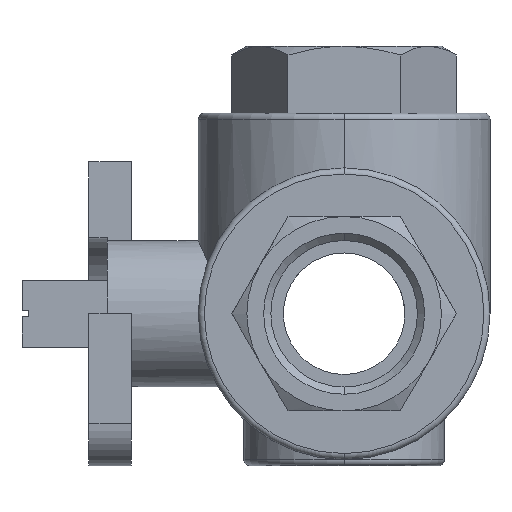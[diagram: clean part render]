
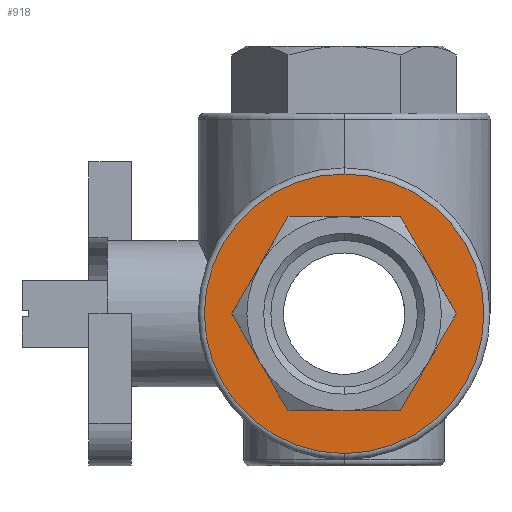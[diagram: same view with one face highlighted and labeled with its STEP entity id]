
A CAD part, left-side view. The second image highlights one B-rep face of the part: STEP entity #918.
In plain terms, the highlighted planar face has unit normal (-1, 0, 0).
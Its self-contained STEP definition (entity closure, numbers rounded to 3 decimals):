
#229 = FACE_BOUND ( 'NONE', #3898, .T. ) ;
#242 = FACE_OUTER_BOUND ( 'NONE', #3657, .T. ) ;
#311 = CIRCLE ( 'NONE', #794, 23. ) ;
#393 = VECTOR ( 'NONE', #1803, 1000. ) ;
#408 = VECTOR ( 'NONE', #1781, 1000. ) ;
#414 = LINE ( 'NONE', #1772, #408 ) ;
#416 = LINE ( 'NONE', #1816, #422 ) ;
#418 = LINE ( 'NONE', #1829, #430 ) ;
#420 = LINE ( 'NONE', #1783, #393 ) ;
#422 = VECTOR ( 'NONE', #1817, 1000. ) ;
#430 = VECTOR ( 'NONE', #1833, 1000. ) ;
#435 = LINE ( 'NONE', #1859, #437 ) ;
#437 = VECTOR ( 'NONE', #1870, 1000. ) ;
#445 = LINE ( 'NONE', #1879, #446 ) ;
#446 = VECTOR ( 'NONE', #1880, 1000. ) ;
#758 = AXIS2_PLACEMENT_3D ( 'NONE', #1431, #1440, #1441 ) ;
#794 = AXIS2_PLACEMENT_3D ( 'NONE', #1563, #1569, #1570 ) ;
#918 = ADVANCED_FACE ( 'NONE', ( #242, #229 ), #1439, .T. ) ;
#978 = AXIS2_PLACEMENT_3D ( 'NONE', #2190, #2199, #2200 ) ;
#1017 = EDGE_CURVE ( 'NONE', #2666, #2729, #311, .T. ) ;
#1091 = EDGE_CURVE ( 'NONE', #2585, #2649, #414, .T. ) ;
#1095 = EDGE_CURVE ( 'NONE', #2649, #2627, #420, .T. ) ;
#1098 = EDGE_CURVE ( 'NONE', #2627, #2566, #416, .T. ) ;
#1103 = EDGE_CURVE ( 'NONE', #2625, #2585, #418, .T. ) ;
#1111 = EDGE_CURVE ( 'NONE', #2675, #2625, #435, .T. ) ;
#1116 = EDGE_CURVE ( 'NONE', #2566, #2675, #445, .T. ) ;
#1191 = EDGE_CURVE ( 'NONE', #2729, #2666, #3106, .T. ) ;
#1431 = CARTESIAN_POINT ( 'NONE',  ( -32.5, 0., 0. ) ) ;
#1439 = PLANE ( 'NONE',  #758 ) ;
#1440 = DIRECTION ( 'NONE',  ( -1., 0., 0. ) ) ;
#1441 = DIRECTION ( 'NONE',  ( 0., 0., 1. ) ) ;
#1563 = CARTESIAN_POINT ( 'NONE',  ( -32.5, 0., 0. ) ) ;
#1569 = DIRECTION ( 'NONE',  ( -1., 0., 0. ) ) ;
#1570 = DIRECTION ( 'NONE',  ( 0., 0., 1. ) ) ;
#1772 = CARTESIAN_POINT ( 'NONE',  ( -32.5, -13.856, -8. ) ) ;
#1781 = DIRECTION ( 'NONE',  ( 0., 0.5, -0.866 ) ) ;
#1783 = CARTESIAN_POINT ( 'NONE',  ( -32.5, 0., -16. ) ) ;
#1803 = DIRECTION ( 'NONE',  ( 0., 1., 0. ) ) ;
#1816 = CARTESIAN_POINT ( 'NONE',  ( -32.5, 13.856, -8. ) ) ;
#1817 = DIRECTION ( 'NONE',  ( 0., 0.5, 0.866 ) ) ;
#1829 = CARTESIAN_POINT ( 'NONE',  ( -32.5, -13.856, 8. ) ) ;
#1833 = DIRECTION ( 'NONE',  ( 0., -0.5, -0.866 ) ) ;
#1859 = CARTESIAN_POINT ( 'NONE',  ( -32.5, 0., 16. ) ) ;
#1870 = DIRECTION ( 'NONE',  ( 0., -1., 0. ) ) ;
#1879 = CARTESIAN_POINT ( 'NONE',  ( -32.5, 13.856, 8. ) ) ;
#1880 = DIRECTION ( 'NONE',  ( 0., -0.5, 0.866 ) ) ;
#2190 = CARTESIAN_POINT ( 'NONE',  ( -32.5, 0., 0. ) ) ;
#2199 = DIRECTION ( 'NONE',  ( -1., 0., 0. ) ) ;
#2200 = DIRECTION ( 'NONE',  ( 0., 0., 1. ) ) ;
#2494 = CARTESIAN_POINT ( 'NONE',  ( -32.5, 18.475, 0. ) ) ;
#2521 = CARTESIAN_POINT ( 'NONE',  ( -32.5, -18.475, 0. ) ) ;
#2566 = VERTEX_POINT ( 'NONE', #2494 ) ;
#2585 = VERTEX_POINT ( 'NONE', #2521 ) ;
#2625 = VERTEX_POINT ( 'NONE', #3480 ) ;
#2627 = VERTEX_POINT ( 'NONE', #3482 ) ;
#2649 = VERTEX_POINT ( 'NONE', #3504 ) ;
#2666 = VERTEX_POINT ( 'NONE', #3521 ) ;
#2675 = VERTEX_POINT ( 'NONE', #3530 ) ;
#2729 = VERTEX_POINT ( 'NONE', #3584 ) ;
#3106 = CIRCLE ( 'NONE', #978, 23. ) ;
#3343 = ORIENTED_EDGE ( 'NONE', *, *, #1098, .T. ) ;
#3344 = ORIENTED_EDGE ( 'NONE', *, *, #1095, .T. ) ;
#3345 = ORIENTED_EDGE ( 'NONE', *, *, #1091, .T. ) ;
#3346 = ORIENTED_EDGE ( 'NONE', *, *, #1103, .T. ) ;
#3347 = ORIENTED_EDGE ( 'NONE', *, *, #1111, .T. ) ;
#3348 = ORIENTED_EDGE ( 'NONE', *, *, #1116, .T. ) ;
#3349 = ORIENTED_EDGE ( 'NONE', *, *, #1191, .T. ) ;
#3350 = ORIENTED_EDGE ( 'NONE', *, *, #1017, .T. ) ;
#3480 = CARTESIAN_POINT ( 'NONE',  ( -32.5, -9.238, 16. ) ) ;
#3482 = CARTESIAN_POINT ( 'NONE',  ( -32.5, 9.238, -16. ) ) ;
#3504 = CARTESIAN_POINT ( 'NONE',  ( -32.5, -9.238, -16. ) ) ;
#3521 = CARTESIAN_POINT ( 'NONE',  ( -32.5, 0., 23. ) ) ;
#3530 = CARTESIAN_POINT ( 'NONE',  ( -32.5, 9.238, 16. ) ) ;
#3584 = CARTESIAN_POINT ( 'NONE',  ( -32.5, 0., -23. ) ) ;
#3657 = EDGE_LOOP ( 'NONE', ( #3350, #3349 ) ) ;
#3898 = EDGE_LOOP ( 'NONE', ( #3348, #3347, #3346, #3345, #3344, #3343 ) ) ;
